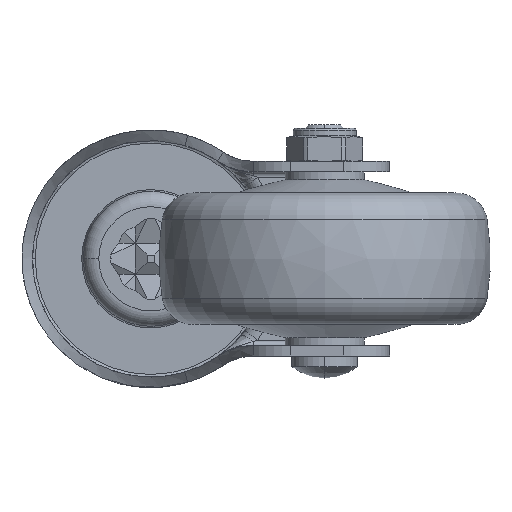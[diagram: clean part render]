
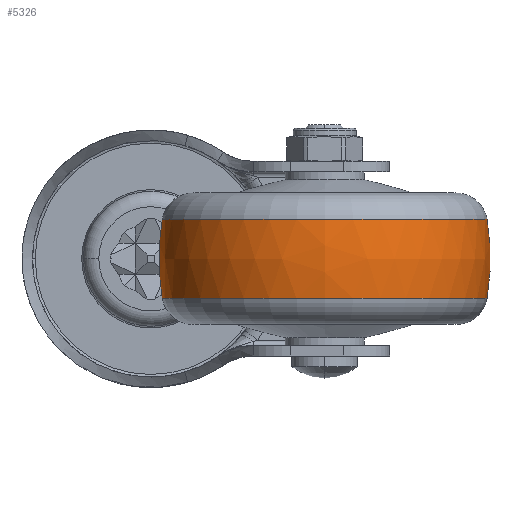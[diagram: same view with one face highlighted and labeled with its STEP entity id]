
A CAD part, front view. The second image highlights one B-rep face of the part: STEP entity #5326.
In plain terms, the highlighted free-form (B-spline) face has degree [3, 3] with [7, 4] control points.
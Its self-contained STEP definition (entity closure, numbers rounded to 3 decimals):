
#4767=CARTESIAN_POINT('',(0.,-13.5,0.));
#4768=DIRECTION('',(0.,0.,1.));
#4769=DIRECTION('',(0.167,0.986,0.));
#4770=AXIS2_PLACEMENT_3D('',#4767,#4768,#4769);
#4772=CARTESIAN_POINT('',(0.,13.5,0.));
#4773=DIRECTION('',(0.,0.,-1.));
#4774=DIRECTION('',(0.167,-0.986,0.));
#4775=AXIS2_PLACEMENT_3D('',#4772,#4773,#4774);
#4777=CARTESIAN_POINT('',(7.5,0.,0.));
#4778=DIRECTION('',(-1.,0.,0.));
#4779=DIRECTION('',(0.,1.,0.));
#4780=AXIS2_PLACEMENT_3D('',#4777,#4778,#4779);
#4802=CARTESIAN_POINT('',(-7.5,0.,0.));
#4803=DIRECTION('',(-1.,0.,0.));
#4804=DIRECTION('',(0.,1.,0.));
#4805=AXIS2_PLACEMENT_3D('',#4802,#4803,#4804);
#4944=CARTESIAN_POINT('',(7.5,30.871,0.));
#4946=VERTEX_POINT('',#4944);
#4947=CARTESIAN_POINT('',(-7.5,30.871,0.));
#4948=VERTEX_POINT('',#4947);
#4952=CARTESIAN_POINT('',(7.5,-30.871,0.));
#4954=VERTEX_POINT('',#4952);
#4955=CARTESIAN_POINT('',(-7.5,-30.871,0.));
#4956=VERTEX_POINT('',#4955);
#5288=CARTESIAN_POINT('',(-7.797,-30.759,
1.935));
#5289=CARTESIAN_POINT('',(-2.625,-31.667,
1.992));
#5290=CARTESIAN_POINT('',(2.625,-31.667,1.992));
#5291=CARTESIAN_POINT('',(7.797,-30.759,1.935));
#5292=CARTESIAN_POINT('',(-7.797,-31.949,
-16.994));
#5293=CARTESIAN_POINT('',(-2.625,-32.893,
-17.495));
#5294=CARTESIAN_POINT('',(2.625,-32.893,
-17.495));
#5295=CARTESIAN_POINT('',(7.797,-31.949,
-16.994));
#5296=CARTESIAN_POINT('',(-7.797,-18.966,
-30.819));
#5297=CARTESIAN_POINT('',(-2.625,-19.526,
-31.729));
#5298=CARTESIAN_POINT('',(2.625,-19.526,
-31.729));
#5299=CARTESIAN_POINT('',(7.797,-18.966,
-30.819));
#5300=CARTESIAN_POINT('',(-7.797,0.,
-30.819));
#5301=CARTESIAN_POINT('',(-2.625,0.,
-31.729));
#5302=CARTESIAN_POINT('',(2.625,0.,
-31.729));
#5303=CARTESIAN_POINT('',(7.797,0.,
-30.819));
#5304=CARTESIAN_POINT('',(-7.797,18.966,
-30.819));
#5305=CARTESIAN_POINT('',(-2.625,19.526,
-31.729));
#5306=CARTESIAN_POINT('',(2.625,19.526,-31.729));
#5307=CARTESIAN_POINT('',(7.797,18.966,-30.819));
#5308=CARTESIAN_POINT('',(-7.797,31.949,
-16.994));
#5309=CARTESIAN_POINT('',(-2.625,32.893,
-17.495));
#5310=CARTESIAN_POINT('',(2.625,32.893,-17.495));
#5311=CARTESIAN_POINT('',(7.797,31.949,-16.994));
#5312=CARTESIAN_POINT('',(-7.797,30.759,1.935));
#5313=CARTESIAN_POINT('',(-2.625,31.667,1.992));
#5314=CARTESIAN_POINT('',(2.625,31.667,1.992));
#5315=CARTESIAN_POINT('',(7.797,30.759,1.935));
#5316=(BOUNDED_SURFACE()B_SPLINE_SURFACE(3,3,((#5288,#5289,#5290,#5291),(#5292,
#5293,#5294,#5295),(#5296,#5297,#5298,#5299),(#5300,#5301,#5302,#5303),(#5304,
#5305,#5306,#5307),(#5308,#5309,#5310,#5311),(#5312,#5313,#5314,#5315)),
.UNSPECIFIED.,.F.,.F.,.F.)B_SPLINE_SURFACE_WITH_KNOTS((4,3,4),(4,4),(0.,1.,
2.),(0.,1.),.UNSPECIFIED.)GEOMETRIC_REPRESENTATION_ITEM()RATIONAL_B_SPLINE_SURFACE(((1.196,1.184,1.184,1.196),(
0.945,0.935,0.935,0.945),(
0.945,0.935,0.935,0.945),(
1.196,1.184,1.184,1.196),(
0.945,0.935,0.935,0.945),(
0.945,0.935,0.935,0.945),(
1.196,1.184,1.184,1.196)))REPRESENTATION_ITEM('')SURFACE());
#5318=ORIENTED_EDGE('',*,*,#5317,.T.);
#5320=ORIENTED_EDGE('',*,*,#5319,.T.);
#5322=ORIENTED_EDGE('',*,*,#5321,.F.);
#5323=ORIENTED_EDGE('',*,*,#5281,.F.);
#5324=EDGE_LOOP('',(#5318,#5320,#5322,#5323));
#5325=FACE_OUTER_BOUND('',#5324,.F.);
#4771=CIRCLE('',#4770,45.);
#4776=CIRCLE('',#4775,45.);
#4781=CIRCLE('',#4780,30.871);
#4806=CIRCLE('',#4805,30.871);
#5281=EDGE_CURVE('',#4946,#4954,#4781,.T.);
#5317=EDGE_CURVE('',#4946,#4948,#4771,.T.);
#5319=EDGE_CURVE('',#4948,#4956,#4806,.T.);
#5321=EDGE_CURVE('',#4954,#4956,#4776,.T.);
#5326=ADVANCED_FACE('',(#5325),#5316,.T.);
